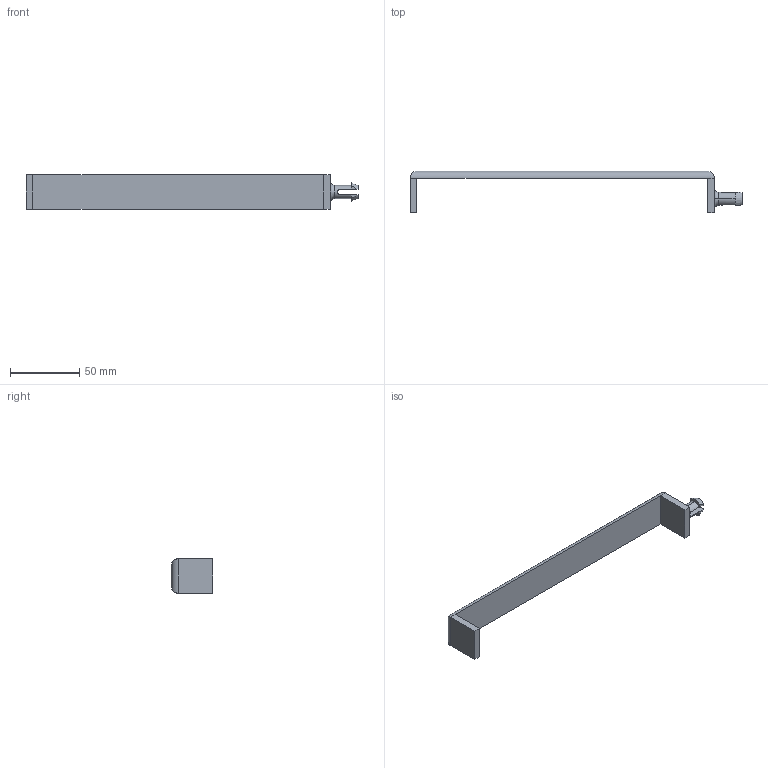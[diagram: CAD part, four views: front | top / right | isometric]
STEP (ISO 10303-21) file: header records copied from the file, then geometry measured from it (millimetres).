
FILE_DESCRIPTION((''),'2;1');
FILE_NAME('TOWER_HANGER','',(''),(''),'','');
FILE_SCHEMA(('CONFIG_CONTROL_DESIGN'));
Length unit declared in the file: millimetre
Products named in the file (1): TOWER_HANGER
Bounding box: 240 x 30 x 25 mm (x, y, z)
Volume: 32228.7 mm3; surface area: 16160 mm2
Topology: 1 solids, 1 shells, 33 faces, 80 edges, 50 vertices
Faces by surface type: plane 22, cylinder 7, torus 2, cone 2
Entity records: 1060 total; most frequent: CARTESIAN_POINT 265, ORIENTED_EDGE 160, DIRECTION 146, EDGE_CURVE 80, VECTOR 52, LINE 52, VERTEX_POINT 50, AXIS2_PLACEMENT_3D 47
